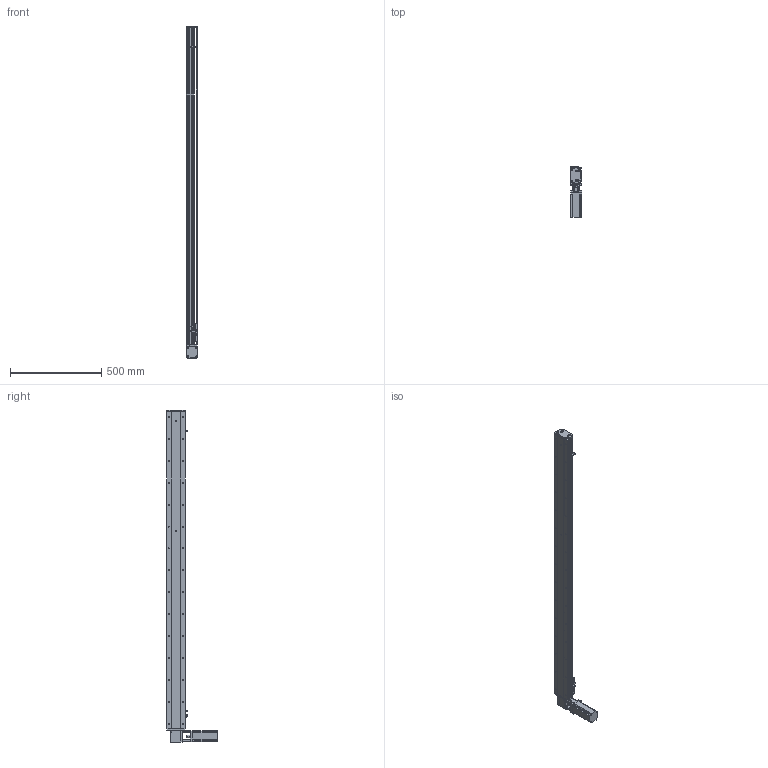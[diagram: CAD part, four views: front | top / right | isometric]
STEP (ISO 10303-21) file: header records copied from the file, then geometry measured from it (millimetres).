
FILE_DESCRIPTION (( 'STEP AP214' ), '1' );
FILE_NAME ('KSD100B-S1550-MLT-CM.STEP', '2019-11-11T05:31:22', ( '微软用户' ), ( '微软中国' ), 'SwSTEP 2.0', 'SolidWorks 2014', '' );
FILE_SCHEMA (( 'AUTOMOTIVE_DESIGN' ));
Length unit declared in the file: millimetre
Products named in the file (12): 100宽防尘板1550行程-同步带; U倰嫖萇EEㄜSX672; 覜茼え100遵圉猾敕; 台达ECMA－C20604AS伺服电机; 100宽马达安装板同步带右; 100宽同步带安装板半封闭; 100宽马达安装板同步带; 100遵傷啣肮祭湍; 100宽底板半封闭同步带1550行程; KSD100B-S1550-MLT-CM; 100宽安装板同步带带电机座400W,86; 100遵鎮湛假蚾啣1 
Assembly tree (13 placements, depth 2):
  KSD100B-S1550-MLT-CM
    100宽底板半封闭同步带1550行程
    100遵傷啣肮祭湍
    100宽马达安装板同步带
    100宽同步带安装板半封闭
    100宽马达安装板同步带右
    台达ECMA－C20604AS伺服电机
    覜茼え100遵圉猾敕
    U倰嫖萇EEㄜSX672  x3
    100宽防尘板1550行程-同步带
    100遵鎮湛假蚾啣1 
    100宽安装板同步带带电机座400W,86
Bounding box: 61 x 275 x 1815 mm (x, y, z)
Volume: 3804507.4 mm3; surface area: 1276388.4 mm2
Topology: 14 solids, 14 shells, 1618 faces, 4579 edges, 2887 vertices
Faces by surface type: cylinder 848, plane 595, cone 175
Entity records: 58367 total; most frequent: CARTESIAN_POINT 12510, DIRECTION 7999, ORIENTED_EDGE 7714, EDGE_CURVE 3857, AXIS2_PLACEMENT_3D 2962, VERTEX_POINT 2511, LINE 2075, VECTOR 2075
